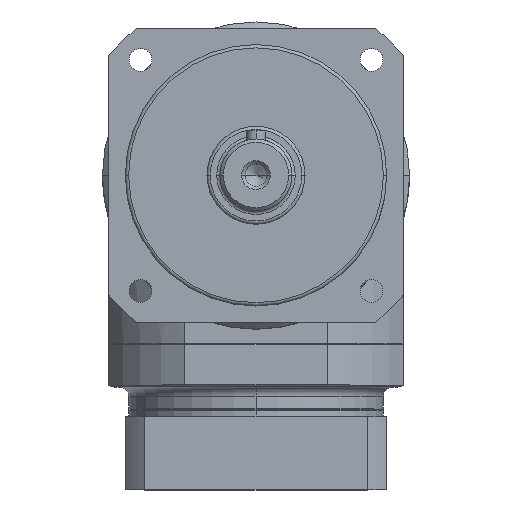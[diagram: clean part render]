
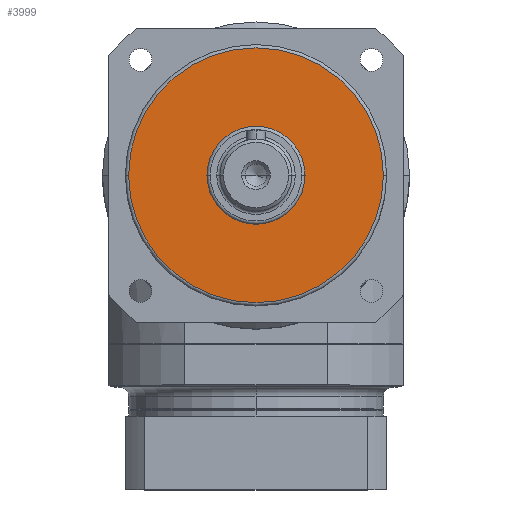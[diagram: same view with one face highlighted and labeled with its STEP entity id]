
A CAD part, top view. The second image highlights one B-rep face of the part: STEP entity #3999.
In plain terms, the highlighted planar face has unit normal (0, 0, 1).
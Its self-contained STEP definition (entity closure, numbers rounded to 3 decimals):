
#181 = DIRECTION ( 'NONE',  ( 0., 0., 1. ) ) ;
#530 = CARTESIAN_POINT ( 'NONE',  ( 0., 0., 18. ) ) ;
#743 = EDGE_LOOP ( 'NONE', ( #1306, #4027 ) ) ;
#901 = VERTEX_POINT ( 'NONE', #3079 ) ;
#1234 = DIRECTION ( 'NONE',  ( 0., 0., 1. ) ) ;
#1240 = CARTESIAN_POINT ( 'NONE',  ( 0., 0., 18. ) ) ;
#1258 = DIRECTION ( 'NONE',  ( 1., 0., 0. ) ) ;
#1306 = ORIENTED_EDGE ( 'NONE', *, *, #2902, .T. ) ;
#1571 = ORIENTED_EDGE ( 'NONE', *, *, #4412, .F. ) ;
#1581 = CIRCLE ( 'NONE', #2207, 39. ) ;
#1664 = CIRCLE ( 'NONE', #4722, 15. ) ;
#1669 = FACE_BOUND ( 'NONE', #1976, .T. ) ;
#1925 = DIRECTION ( 'NONE',  ( 1., 0., 0. ) ) ;
#1976 = EDGE_LOOP ( 'NONE', ( #1571, #5343 ) ) ;
#2025 = VERTEX_POINT ( 'NONE', #4167 ) ;
#2207 = AXIS2_PLACEMENT_3D ( 'NONE', #3624, #181, #4958 ) ;
#2248 = DIRECTION ( 'NONE',  ( 1., 0., 0. ) ) ;
#2285 = CARTESIAN_POINT ( 'NONE',  ( 0., 0., 18. ) ) ;
#2615 = EDGE_CURVE ( 'NONE', #3798, #2813, #5086, .T. ) ;
#2813 = VERTEX_POINT ( 'NONE', #4082 ) ;
#2902 = EDGE_CURVE ( 'NONE', #2025, #901, #4360, .T. ) ;
#2964 = DIRECTION ( 'NONE',  ( 0., 0., 1. ) ) ;
#3079 = CARTESIAN_POINT ( 'NONE',  ( -39., 0., 18. ) ) ;
#3190 = AXIS2_PLACEMENT_3D ( 'NONE', #530, #5220, #2248 ) ;
#3365 = AXIS2_PLACEMENT_3D ( 'NONE', #2285, #4462, #1925 ) ;
#3624 = CARTESIAN_POINT ( 'NONE',  ( 0., 0., 18. ) ) ;
#3798 = VERTEX_POINT ( 'NONE', #5150 ) ;
#3999 = ADVANCED_FACE ( 'NONE', ( #1669, #5115 ), #5138, .T. ) ;
#4027 = ORIENTED_EDGE ( 'NONE', *, *, #5039, .T. ) ;
#4082 = CARTESIAN_POINT ( 'NONE',  ( -15., 0., 18. ) ) ;
#4167 = CARTESIAN_POINT ( 'NONE',  ( 39., 0., 18. ) ) ;
#4228 = CARTESIAN_POINT ( 'NONE',  ( 0., 0., 18. ) ) ;
#4360 = CIRCLE ( 'NONE', #3190, 39. ) ;
#4412 = EDGE_CURVE ( 'NONE', #2813, #3798, #1664, .T. ) ;
#4462 = DIRECTION ( 'NONE',  ( 0., 0., 1. ) ) ;
#4565 = AXIS2_PLACEMENT_3D ( 'NONE', #1240, #2964, #4681 ) ;
#4681 = DIRECTION ( 'NONE',  ( 1., 0., 0. ) ) ;
#4722 = AXIS2_PLACEMENT_3D ( 'NONE', #4228, #1234, #1258 ) ;
#4958 = DIRECTION ( 'NONE',  ( 1., 0., 0. ) ) ;
#5039 = EDGE_CURVE ( 'NONE', #901, #2025, #1581, .T. ) ;
#5086 = CIRCLE ( 'NONE', #3365, 15. ) ;
#5115 = FACE_OUTER_BOUND ( 'NONE', #743, .T. ) ;
#5138 = PLANE ( 'NONE',  #4565 ) ;
#5150 = CARTESIAN_POINT ( 'NONE',  ( 15., 0., 18. ) ) ;
#5220 = DIRECTION ( 'NONE',  ( 0., 0., 1. ) ) ;
#5343 = ORIENTED_EDGE ( 'NONE', *, *, #2615, .F. ) ;
